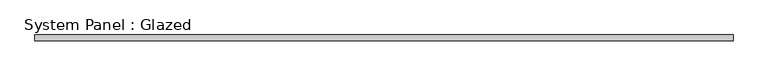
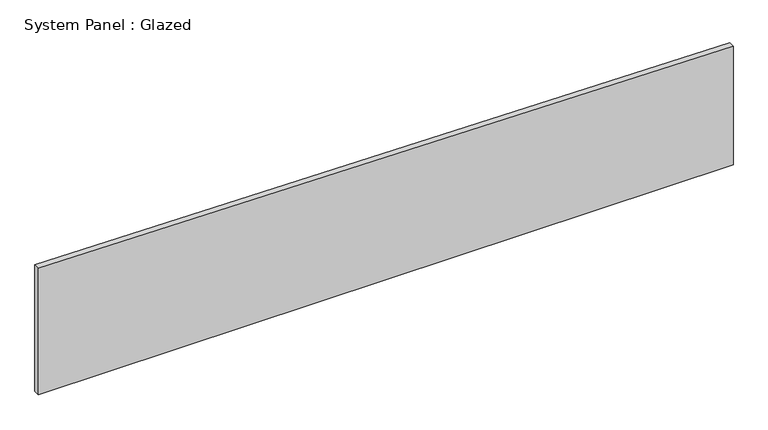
"""IFC4 building model written with IfcOpenShell, lengths in millimetres: plate geometry, System Panel : Glazed."""

from ifc_helpers import new_model, si_unit, frame, origin, place, context, project, spatial, polyline, outline, extrude, source, transform, mapped, element, save


def system_panel_glazed_21f896d7(model_context):
    return source(origin(), model_context, "Body", "SweptSolid", [
        extrude(outline(polyline([(0.0, -1504.95), (0.0, 1504.95), (541.963104, 1504.95), (578.9580237, -1504.95), (0.0, -1504.95)])), frame((0.0, 19.05, 0.0), z_axis=(0.0, 1.0, 0.0), x_axis=(0.0, 0.0, 1.0)), (0.0, 0.0, 1.0), 25.4),
    ])


if __name__ == "__main__":
    model = new_model("IFC4")
    model_context = context("Model", 3, world=origin())
    ifc_project = project(units=[si_unit("LENGTHUNIT", "METRE", prefix="MILLI")], contexts=[model_context])
    site = spatial("IfcSite", under=ifc_project)
    building = spatial("IfcBuilding", under=site)
    placement = place(None, origin())
    system_panel_glazed_shape = system_panel_glazed_21f896d7(model_context)
    element("IfcPlate", 1, ObjectType="System Panel : Glazed", at=placement, inside=building, context=model_context, shape_type="MappedRepresentation", body=[
        mapped(system_panel_glazed_shape, transform((0.0, 0.0, 0.0), x_axis=(1.0, 0.0, 0.0), y_axis=(0.0, 1.0, 0.0), z_axis=(0.0, 0.0, 1.0))),
    ])
    save(model, "model.ifc")
